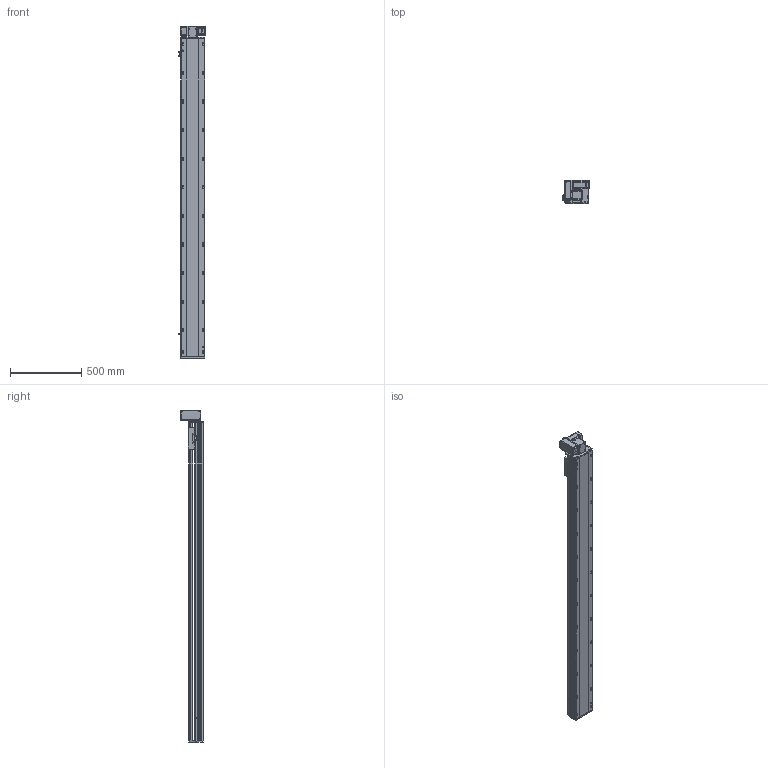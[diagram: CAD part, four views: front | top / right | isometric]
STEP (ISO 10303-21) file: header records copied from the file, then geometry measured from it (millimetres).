
FILE_DESCRIPTION (( 'STEP AP214' ), '1' );
FILE_NAME ('RTB17S-XX-1950-LW-M40-C4.STEP', '2025-12-11T07:12:11', ( '' ), ( '' ), 'SwSTEP 2.0', 'SolidWorks 2018', '' );
FILE_SCHEMA (( 'AUTOMOTIVE_DESIGN' ));
Length unit declared in the file: millimetre
Products named in the file (14): OMRON EE-SX672 传感器^RTB17S-XX-XX-LW-M40-C4; RTB17S-LW-々湍釱蚾饜-400W^RTB17S-XX-XX-LW-M40-C4; RTB17S-L-001耜醱啣^RTB17S-XX-XX-LW-M40-C4; RTB14-L-017P^RTB17S-LW-々湍釱蚾饜-400W_RTB17S-XX-XX-LW-M40-C4; RTB17S-L-014-T20--々湍釱^RTB17S-LW-々湍釱蚾饜-400W_RTB17S-XX-XX-LW-M40-C4; RTB14-L-018P^RTB17S-LW-々湍釱蚾饜-400W_RTB17S-XX-XX-LW-M40-C4; RTB14-L-005P--轴承塑胶压盖^RTB17S-LW-皮带座装配-400W_RTB17S-XX-XX-LW-M40-C4; RTB14-L-008-M20--萇儂啣^RTB17S-LW-々湍釱蚾饜-400W_RTB17S-XX-XX-LW-M40-C4; RTB17-R-011菁釱^RTB17S-XX-XX-LW-M40-C4; RTB17S-L-007奻裔^RTB17S-XX-XX-LW-M40-C4; RTB17S-XX-1950-LW-M40-C4; RTB17S-L-004佪裝蹟譫蟀諉釱^RTB17S-XX-XX-LW-M40-C4; 400W侜督萇儂^RTB17S-XX-XX-LW-M40-C4; RTH13-BL-012覜茼え俋离^RTB17S-XX-XX-LW-M40-C4
Assembly tree (16 placements, depth 3):
  RTB17S-XX-1950-LW-M40-C4
    RTB17-R-011菁釱^RTB17S-XX-XX-LW-M40-C4
    RTB17S-L-007奻裔^RTB17S-XX-XX-LW-M40-C4
    OMRON EE-SX672 传感器^RTB17S-XX-XX-LW-M40-C4  x3
    RTB17S-L-001耜醱啣^RTB17S-XX-XX-LW-M40-C4
    400W侜督萇儂^RTB17S-XX-XX-LW-M40-C4
    RTB17S-L-004佪裝蹟譫蟀諉釱^RTB17S-XX-XX-LW-M40-C4
    RTH13-BL-012覜茼え俋离^RTB17S-XX-XX-LW-M40-C4
    RTB17S-LW-々湍釱蚾饜-400W^RTB17S-XX-XX-LW-M40-C4
      RTB17S-L-014-T20--々湍釱^RTB17S-LW-々湍釱蚾饜-400W_RTB17S-XX-XX-LW-M40-C4
      RTB14-L-005P--轴承塑胶压盖^RTB17S-LW-皮带座装配-400W_RTB17S-XX-XX-LW-M40-C4
      RTB14-L-008-M20--萇儂啣^RTB17S-LW-々湍釱蚾饜-400W_RTB17S-XX-XX-LW-M40-C4
      RTB14-L-017P^RTB17S-LW-々湍釱蚾饜-400W_RTB17S-XX-XX-LW-M40-C4  x2
      RTB14-L-018P^RTB17S-LW-々湍釱蚾饜-400W_RTB17S-XX-XX-LW-M40-C4
Bounding box: 186 x 160.5 x 2322.5 mm (x, y, z)
Volume: 20121525.5 mm3; surface area: 2342891.7 mm2
Topology: 15 solids, 15 shells, 2285 faces, 6357 edges, 4149 vertices
Faces by surface type: plane 1078, cylinder 759, bspline 301, cone 139, torus 8
Entity records: 66473 total; most frequent: CARTESIAN_POINT 18762, ORIENTED_EDGE 9558, DIRECTION 8846, EDGE_CURVE 4779, VERTEX_POINT 3137, AXIS2_PLACEMENT_3D 3067, VECTOR 2712, LINE 2712
